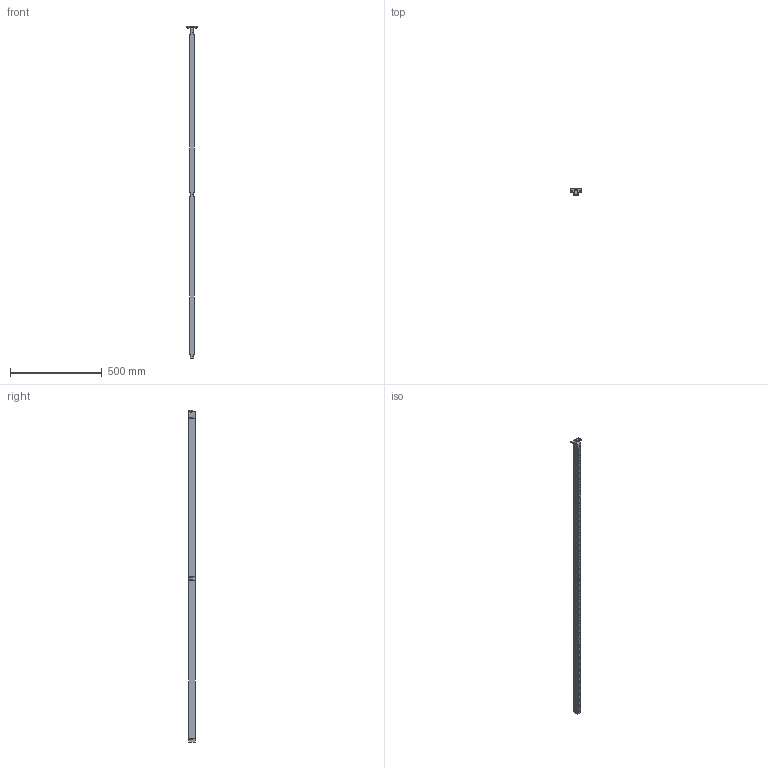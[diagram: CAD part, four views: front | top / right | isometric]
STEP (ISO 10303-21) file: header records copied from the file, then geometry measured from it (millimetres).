
FILE_DESCRIPTION(/* description */ (''),/* implementation_level */ '2;1');
FILE_NAME(/* name */ 'S:\EASCN Vault\Designs\Standard Part\DIE LIFTERS\EHB\EHB- 3D step\EHB22 - 3D step complete serie\EHB 22-44.stp',/* time_stamp */ '2019-11-21T16:08:10+08:00',/* author */ ('yue.yang'),/* organization */ (''),/* preprocessor_version */ 'ST-DEVELOPER v17',/* originating_system */ 'Autodesk Inventor 2019',/* authorisation */ '');
FILE_SCHEMA (('AUTOMOTIVE_DESIGN { 1 0 10303 214 3 1 1 }'));
Products named in the file (1): EHB 22-44_Shrinkwrap_1
Bounding box: 58 x 37.8 x 1809 mm (x, y, z)
Volume: 1159075.7 mm3; surface area: 457048.2 mm2
Topology: 151 solids, 151 shells, 1445 faces, 3994 edges, 2896 vertices
Faces by surface type: plane 498, cylinder 464, torus 220, cone 219, sphere 44
Full cylindrical faces by diameter (mm): 3 x3, 4.134 x1, 5 x27, 5.5 x5, 6 x46, 6.647 x2, 8 x2, 10 x8, 10.5 x1, 12.2 x44, 16 x44, 16.4 x44, 17.05 x44, 19.05 x44, 19.2 x44
Entity records: 54397 total; most frequent: CARTESIAN_POINT 13621, DIRECTION 8931, ORIENTED_EDGE 7712, AXIS2_PLACEMENT_3D 3977, EDGE_CURVE 3856, VERTEX_POINT 2896, CIRCLE 2529, EDGE_LOOP 1868
